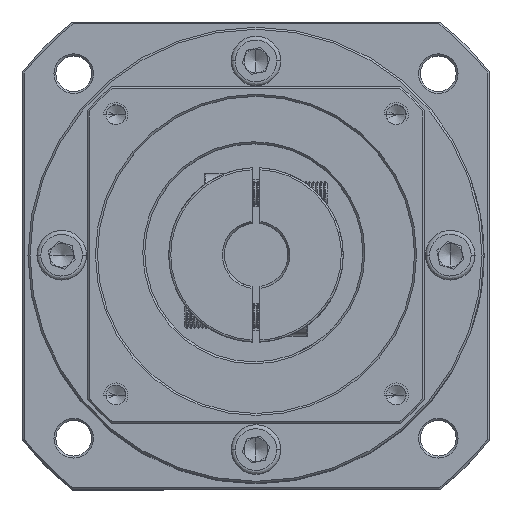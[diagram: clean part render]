
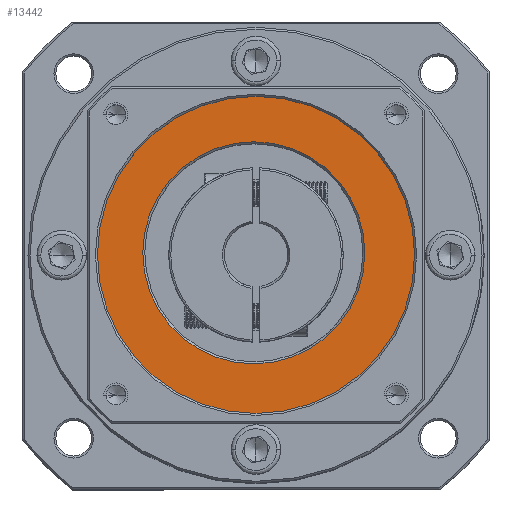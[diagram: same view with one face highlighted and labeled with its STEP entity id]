
A CAD part, top view. The second image highlights one B-rep face of the part: STEP entity #13442.
In plain terms, the highlighted planar face has unit normal (0, 0, 1).
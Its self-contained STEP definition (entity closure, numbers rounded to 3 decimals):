
#247 = PLANE ( 'NONE',  #92541 ) ;
#836 = FACE_BOUND ( 'NONE', #42609, .T. ) ;
#7149 = CIRCLE ( 'NONE', #112292, 40. ) ;
#8034 = EDGE_CURVE ( 'NONE', #43406, #44188, #13701, .T. ) ;
#11604 = EDGE_CURVE ( 'NONE', #110417, #58006, #15173, .T. ) ;
#13442 = ADVANCED_FACE ( 'NONE', ( #44861, #836 ), #247, .T. ) ;
#13701 = CIRCLE ( 'NONE', #41239, 40. ) ;
#13952 = CARTESIAN_POINT ( 'NONE',  ( -76.035, 45.579, 1.149 ) ) ;
#15173 = CIRCLE ( 'NONE', #43960, 28. ) ;
#20167 = DIRECTION ( 'NONE',  ( 0., 0., 1. ) ) ;
#22811 = DIRECTION ( 'NONE',  ( 1., 0., 0. ) ) ;
#28493 = CARTESIAN_POINT ( 'NONE',  ( -76.576, 46.113, 1.149 ) ) ;
#30890 = EDGE_CURVE ( 'NONE', #44188, #43406, #7149, .T. ) ;
#33696 = CARTESIAN_POINT ( 'NONE',  ( -116.035, 45.579, 1.149 ) ) ;
#35865 = ORIENTED_EDGE ( 'NONE', *, *, #86664, .T. ) ;
#37317 = DIRECTION ( 'NONE',  ( 1., 0., 0. ) ) ;
#37965 = CARTESIAN_POINT ( 'NONE',  ( -104.576, 46.113, 1.149 ) ) ;
#38500 = CARTESIAN_POINT ( 'NONE',  ( -76.576, 46.113, 1.149 ) ) ;
#41239 = AXIS2_PLACEMENT_3D ( 'NONE', #72682, #20167, #81536 ) ;
#42609 = EDGE_LOOP ( 'NONE', ( #94259, #35865 ) ) ;
#43406 = VERTEX_POINT ( 'NONE', #47226 ) ;
#43960 = AXIS2_PLACEMENT_3D ( 'NONE', #28493, #89756, #37317 ) ;
#44188 = VERTEX_POINT ( 'NONE', #33696 ) ;
#44466 = CARTESIAN_POINT ( 'NONE',  ( -76.035, 45.579, 1.149 ) ) ;
#44861 = FACE_OUTER_BOUND ( 'NONE', #95131, .T. ) ;
#47226 = CARTESIAN_POINT ( 'NONE',  ( -36.035, 45.579, 1.149 ) ) ;
#47259 = DIRECTION ( 'NONE',  ( 1., 0., 0. ) ) ;
#48016 = ORIENTED_EDGE ( 'NONE', *, *, #8034, .T. ) ;
#53227 = DIRECTION ( 'NONE',  ( 1., 0., 0. ) ) ;
#58006 = VERTEX_POINT ( 'NONE', #37965 ) ;
#58590 = AXIS2_PLACEMENT_3D ( 'NONE', #38500, #99788, #47259 ) ;
#72682 = CARTESIAN_POINT ( 'NONE',  ( -76.035, 45.579, 1.149 ) ) ;
#73275 = ORIENTED_EDGE ( 'NONE', *, *, #30890, .T. ) ;
#75314 = DIRECTION ( 'NONE',  ( 0., 0., 1. ) ) ;
#81536 = DIRECTION ( 'NONE',  ( 1., 0., 0. ) ) ;
#86664 = EDGE_CURVE ( 'NONE', #58006, #110417, #96451, .T. ) ;
#87412 = CARTESIAN_POINT ( 'NONE',  ( -48.576, 46.113, 1.149 ) ) ;
#89756 = DIRECTION ( 'NONE',  ( 0., 0., -1. ) ) ;
#92541 = AXIS2_PLACEMENT_3D ( 'NONE', #44466, #105734, #53227 ) ;
#94259 = ORIENTED_EDGE ( 'NONE', *, *, #11604, .T. ) ;
#95131 = EDGE_LOOP ( 'NONE', ( #48016, #73275 ) ) ;
#96451 = CIRCLE ( 'NONE', #58590, 28. ) ;
#99788 = DIRECTION ( 'NONE',  ( 0., 0., -1. ) ) ;
#105734 = DIRECTION ( 'NONE',  ( 0., 0., 1. ) ) ;
#110417 = VERTEX_POINT ( 'NONE', #87412 ) ;
#112292 = AXIS2_PLACEMENT_3D ( 'NONE', #13952, #75314, #22811 ) ;
